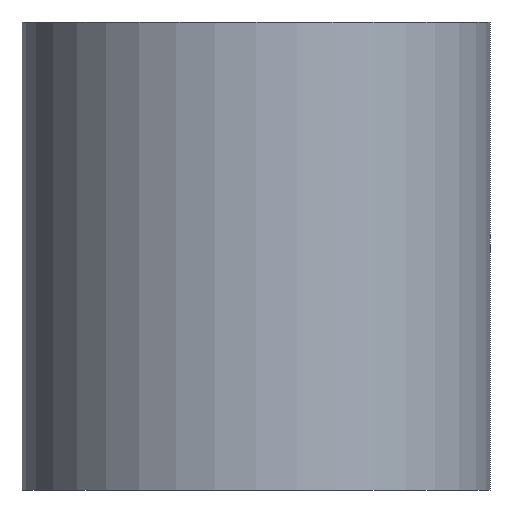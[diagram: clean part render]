
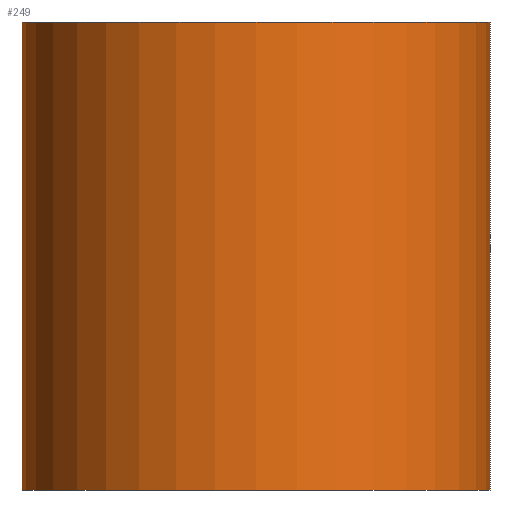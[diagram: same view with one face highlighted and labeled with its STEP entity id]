
A CAD part, front view. The second image highlights one B-rep face of the part: STEP entity #249.
In plain terms, the highlighted cylindrical face has radius 6 mm (diameter 12 mm), a partial arc.
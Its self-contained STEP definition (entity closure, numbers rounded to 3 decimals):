
#10 = DIRECTION ( 'NONE',  ( 1., 0., 0. ) ) ;
#15 = CARTESIAN_POINT ( 'NONE',  ( 6., 0., 12. ) ) ;
#25 = FACE_OUTER_BOUND ( 'NONE', #109, .T. ) ;
#37 = VECTOR ( 'NONE', #141, 1000. ) ;
#42 = LINE ( 'NONE', #86, #37 ) ;
#49 = EDGE_CURVE ( 'NONE', #195, #232, #75, .T. ) ;
#52 = AXIS2_PLACEMENT_3D ( 'NONE', #85, #66, #204 ) ;
#54 = VERTEX_POINT ( 'NONE', #15 ) ;
#66 = DIRECTION ( 'NONE',  ( 0., 0., 1. ) ) ;
#68 = VERTEX_POINT ( 'NONE', #94 ) ;
#72 = ORIENTED_EDGE ( 'NONE', *, *, #121, .F. ) ;
#75 = CIRCLE ( 'NONE', #166, 6. ) ;
#85 = CARTESIAN_POINT ( 'NONE',  ( 0., 0., 12. ) ) ;
#86 = CARTESIAN_POINT ( 'NONE',  ( -6., 0., 32. ) ) ;
#87 = DIRECTION ( 'NONE',  ( 0., 0., 1. ) ) ;
#94 = CARTESIAN_POINT ( 'NONE',  ( -6., 0., 12. ) ) ;
#99 = CARTESIAN_POINT ( 'NONE',  ( 0., 0., 0. ) ) ;
#102 = CARTESIAN_POINT ( 'NONE',  ( 6., 0., 0. ) ) ;
#103 = CYLINDRICAL_SURFACE ( 'NONE', #175, 6. ) ;
#106 = CARTESIAN_POINT ( 'NONE',  ( 6., 0., 32. ) ) ;
#109 = EDGE_LOOP ( 'NONE', ( #152, #128, #196, #72 ) ) ;
#121 = EDGE_CURVE ( 'NONE', #68, #54, #129, .T. ) ;
#128 = ORIENTED_EDGE ( 'NONE', *, *, #49, .T. ) ;
#129 = CIRCLE ( 'NONE', #52, 6. ) ;
#134 = VECTOR ( 'NONE', #87, 1000. ) ;
#138 = EDGE_CURVE ( 'NONE', #232, #54, #164, .T. ) ;
#141 = DIRECTION ( 'NONE',  ( 0., 0., 1. ) ) ;
#152 = ORIENTED_EDGE ( 'NONE', *, *, #172, .F. ) ;
#164 = LINE ( 'NONE', #106, #134 ) ;
#166 = AXIS2_PLACEMENT_3D ( 'NONE', #99, #179, #10 ) ;
#172 = EDGE_CURVE ( 'NONE', #195, #68, #42, .T. ) ;
#175 = AXIS2_PLACEMENT_3D ( 'NONE', #217, #246, #205 ) ;
#179 = DIRECTION ( 'NONE',  ( 0., 0., 1. ) ) ;
#185 = CARTESIAN_POINT ( 'NONE',  ( -6., 0., 0. ) ) ;
#195 = VERTEX_POINT ( 'NONE', #185 ) ;
#196 = ORIENTED_EDGE ( 'NONE', *, *, #138, .T. ) ;
#204 = DIRECTION ( 'NONE',  ( 1., 0., 0. ) ) ;
#205 = DIRECTION ( 'NONE',  ( 1., 0., 0. ) ) ;
#217 = CARTESIAN_POINT ( 'NONE',  ( 0., 0., 32. ) ) ;
#232 = VERTEX_POINT ( 'NONE', #102 ) ;
#246 = DIRECTION ( 'NONE',  ( 0., 0., 1. ) ) ;
#249 = ADVANCED_FACE ( 'NONE', ( #25 ), #103, .T. ) ;
